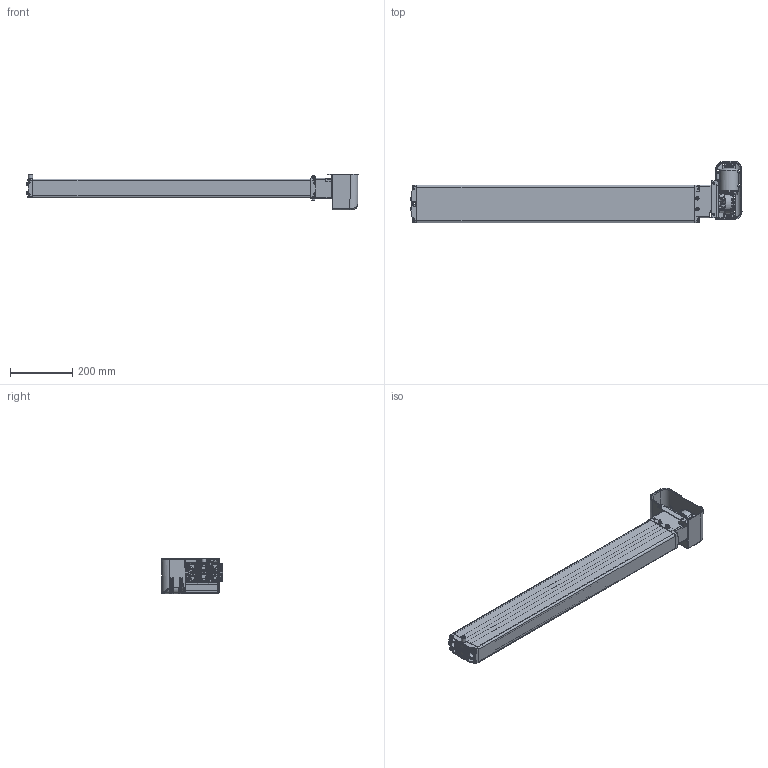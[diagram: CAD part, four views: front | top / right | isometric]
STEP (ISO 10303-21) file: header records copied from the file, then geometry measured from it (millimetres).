
FILE_DESCRIPTION(/* description */ ('Unknown'),/* implementation_level */ '2;1');
FILE_NAME(/* name */ '3X2.00157 Pumpe PB 4440 W mit Antrieb',/* time_stamp */ '2016-09-02T11:24:43+02:00',/* author */ ('Unknown'),/* organization */ ('Unknown'),/* preprocessor_version */ 'ST-DEVELOPER v16.7',/* originating_system */ 'DEX',/* authorisation */ $);
FILE_SCHEMA (('AUTOMOTIVE_DESIGN {1 0 10303 214 3 1 1}'));
Products named in the file (31): 102.00157; 115.00027; 125.00044; 115.00007; 142.00021; 125.00021; 142.00013; 125.00147; 115.00140; 126.00006; 122.00040; 119.00047; 126.00005; 127.00201; 127.00200; 127.00023; 124.00090; Getriebe; Ring; Schraube; Stator; Abdeckplatte; Antriebswelle; 128.00051; 123.00031; 142.00018; 142.00019; 142.00025; 142.00131; 123.00029; 142.00057
Assembly tree (45 placements, depth 3):
  102.00157
    115.00027  x4
      125.00044
      115.00007
      142.00021
      125.00021
    142.00013  x8
    125.00147
    115.00140
      126.00006
      122.00040
    119.00047
    126.00005
    127.00201
      127.00200
      127.00023
    124.00090
      Getriebe
      Ring
      Schraube
      Stator
      Abdeckplatte
      Antriebswelle
    128.00051
    123.00031
    142.00018  x2
    142.00019  x2
    142.00025  x2
    142.00131  x3
    123.00029
    142.00057
Bounding box: 1065.92 x 196.04 x 115.45 mm (x, y, z)
Volume: 1567034.8 mm3; surface area: 1050473.1 mm2
Topology: 46 solids, 48 shells, 4762 faces, 12086 edges, 7323 vertices
Faces by surface type: bspline 1367, plane 1289, cylinder 1255, cone 487, torus 266, sphere 98
Full cylindrical faces by diameter (mm): 2.5 x4, 3.2 x4, 3.5 x4, 3.9 x5, 4.1 x4, 4.2 x6, 4.4 x5, 4.5 x1, 4.917 x2, 5 x8, 5.5 x5, 6 x6, 6.4 x2, 6.8 x5, 6.917 x8, 7 x1, 8 x10, 8.5 x6, 9 x2, 9.5 x1, 9.8 x8, 10 x8, 10.3 x1, 10.32 x1, 10.4 x5, 11 x5, 13.9 x8, 14 x2, 15 x1, 17 x1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
Entity records: 202538 total; most frequent: CARTESIAN_POINT 105863, ORIENTED_EDGE 19210, DIRECTION 14202, EDGE_CURVE 9605, VERTEX_POINT 6188, AXIS2_PLACEMENT_3D 5591, FACE_BOUND 4587, EDGE_LOOP 4582
